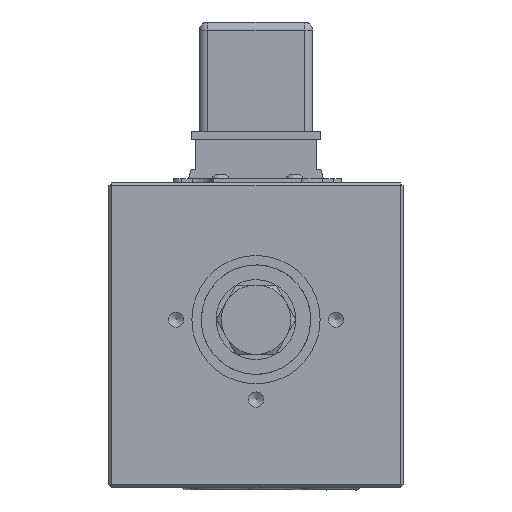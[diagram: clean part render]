
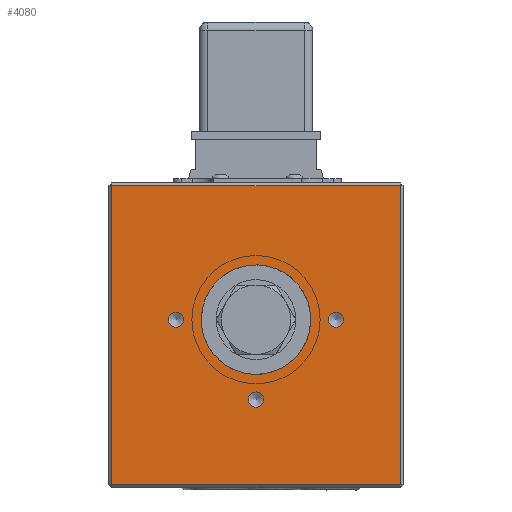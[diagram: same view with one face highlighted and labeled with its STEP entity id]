
A CAD part, left-side view. The second image highlights one B-rep face of the part: STEP entity #4080.
In plain terms, the highlighted planar face has unit normal (-1, 0, 0).
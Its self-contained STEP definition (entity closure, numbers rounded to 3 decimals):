
#4080=ADVANCED_FACE('',(#8030,#8031,#8032,#8033),#4765,.T.);
#4765=PLANE('',#19491);
#5794=LINE('',#50391,#7184);
#5795=LINE('',#50394,#7185);
#5796=LINE('',#50396,#7186);
#5797=LINE('',#50398,#7187);
#7184=VECTOR('',#22813,1.);
#7185=VECTOR('',#22814,1.);
#7186=VECTOR('',#22815,1.);
#7187=VECTOR('',#22816,1.);
#8030=FACE_BOUND('',#8752,.T.);
#8031=FACE_BOUND('',#8753,.T.);
#8032=FACE_BOUND('',#8754,.T.);
#8033=FACE_BOUND('',#8755,.T.);
#8752=EDGE_LOOP('',(#12528));
#8753=EDGE_LOOP('',(#12529));
#8754=EDGE_LOOP('',(#12530));
#8755=EDGE_LOOP('',(#12531,#12532,#12533,#12534));
#9756=CIRCLE('',#19488,1.8);
#9757=CIRCLE('',#19489,1.8);
#9758=CIRCLE('',#19490,1.8);
#12528=ORIENTED_EDGE('',*,*,#17400,.T.);
#12529=ORIENTED_EDGE('',*,*,#17401,.T.);
#12530=ORIENTED_EDGE('',*,*,#17402,.T.);
#12531=ORIENTED_EDGE('',*,*,#17403,.T.);
#12532=ORIENTED_EDGE('',*,*,#17404,.T.);
#12533=ORIENTED_EDGE('',*,*,#17405,.T.);
#12534=ORIENTED_EDGE('',*,*,#17406,.T.);
#15457=VERTEX_POINT('',#50386);
#15458=VERTEX_POINT('',#50388);
#15459=VERTEX_POINT('',#50390);
#15460=VERTEX_POINT('',#50392);
#15461=VERTEX_POINT('',#50393);
#15462=VERTEX_POINT('',#50395);
#15463=VERTEX_POINT('',#50397);
#17400=EDGE_CURVE('',#15457,#15457,#9756,.T.);
#17401=EDGE_CURVE('',#15458,#15458,#9757,.T.);
#17402=EDGE_CURVE('',#15459,#15459,#9758,.T.);
#17403=EDGE_CURVE('',#15460,#15461,#5794,.T.);
#17404=EDGE_CURVE('',#15461,#15462,#5795,.T.);
#17405=EDGE_CURVE('',#15462,#15463,#5796,.T.);
#17406=EDGE_CURVE('',#15463,#15460,#5797,.T.);
#19488=AXIS2_PLACEMENT_3D('',#50385,#22807,#22808);
#19489=AXIS2_PLACEMENT_3D('',#50387,#22809,#22810);
#19490=AXIS2_PLACEMENT_3D('',#50389,#22811,#22812);
#19491=AXIS2_PLACEMENT_3D('',#50399,#22817,#22818);
#22807=DIRECTION('',(1.,0.,0.));
#22808=DIRECTION('',(0.,0.,-1.));
#22809=DIRECTION('',(1.,0.,0.));
#22810=DIRECTION('',(0.,0.,-1.));
#22811=DIRECTION('',(1.,0.,0.));
#22812=DIRECTION('',(0.,0.,-1.));
#22813=DIRECTION('',(0.,0.,1.));
#22814=DIRECTION('',(0.,1.,0.));
#22815=DIRECTION('',(0.,0.,-1.));
#22816=DIRECTION('',(0.,-1.,0.));
#22817=DIRECTION('',(-1.,0.,0.));
#22818=DIRECTION('',(0.,0.,-1.));
#50385=CARTESIAN_POINT('',(0.,54.,-32.5));
#50386=CARTESIAN_POINT('',(0.,54.,-34.3));
#50387=CARTESIAN_POINT('',(0.,35.,-51.5));
#50388=CARTESIAN_POINT('',(0.,35.,-53.3));
#50389=CARTESIAN_POINT('',(0.,16.,-32.5));
#50390=CARTESIAN_POINT('',(0.,16.,-34.3));
#50391=CARTESIAN_POINT('',(0.,0.7,-72.5));
#50392=CARTESIAN_POINT('',(0.,0.7,-71.8));
#50393=CARTESIAN_POINT('',(0.,0.7,-0.7));
#50394=CARTESIAN_POINT('',(0.,70.,-0.7));
#50395=CARTESIAN_POINT('',(0.,69.3,-0.7));
#50396=CARTESIAN_POINT('',(0.,69.3,-72.5));
#50397=CARTESIAN_POINT('',(0.,69.3,-71.8));
#50398=CARTESIAN_POINT('',(0.,0.,-71.8));
#50399=CARTESIAN_POINT('',(0.,70.,-72.5));
